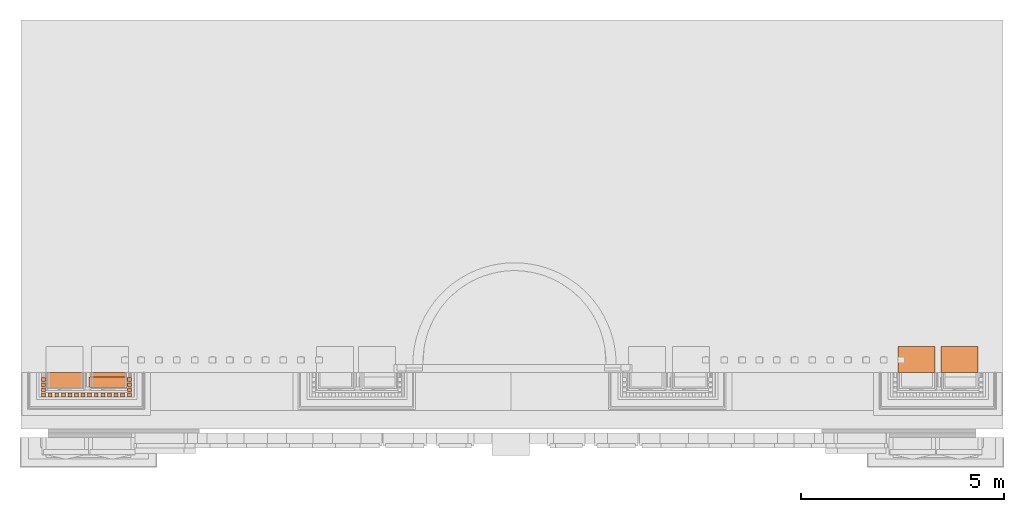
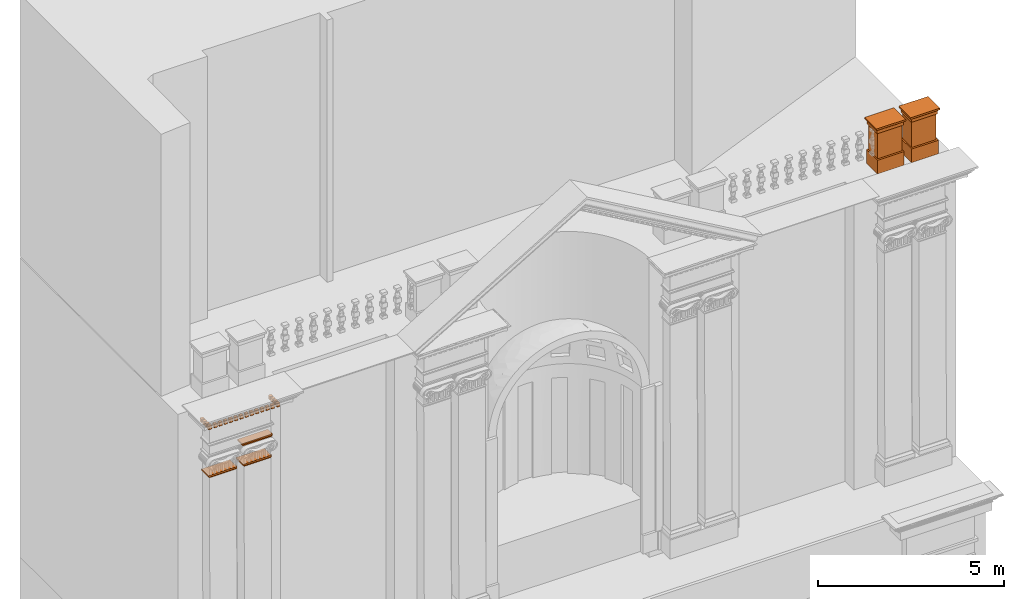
# One storey, part 14 of 44: 28 proxies.
"""IFC2X3 building model written with IfcOpenShell, lengths in metres."""

import ifcopenshell
import ifcopenshell.guid

model = None  # the IFC model being written
_history = None  # IfcOwnerHistory: only IFC2X3 demands one
_inside = {}  # id of a spatial element -> (the spatial element, [elements in it])
_under = {}  # id of a project, library or spatial element -> (it, [spatial elements below it])
_declared = {}  # id of a project -> (the project, [libraries it declares])
_typed = {}  # id of a type object -> (the type object, [elements of that type])
_made_of = {}  # id of a material, layer set ... -> (it, [elements and type objects made of it])


def new_model(schema):
    """Start an empty IFC model of exactly this schema.

    Asked for "IFC4X3", IfcOpenShell would pick the latest addendum, in which some entities
    have other attributes; the version numbers below select the first issue.
    IFC2X3 requires an IfcOwnerHistory on every rooted entity: one is made here for all.
    """
    global model, _history
    if schema == "IFC4X3":
        model = ifcopenshell.file(schema_version=(4, 3, 0, 0))
    else:
        model = ifcopenshell.file(schema=schema)
    _inside.clear()
    _under.clear()
    _declared.clear()
    _typed.clear()
    _made_of.clear()
    _history = None
    if model.schema == "IFC2X3":
        org = make("IfcOrganization", Name="unknown")
        user = make(
            "IfcPersonAndOrganization",
            ThePerson=make("IfcPerson", FamilyName="unknown"),
            TheOrganization=org,
        )
        app = make(
            "IfcApplication",
            ApplicationDeveloper=org,
            Version="unknown",
            ApplicationFullName="unknown",
            ApplicationIdentifier="unknown",
        )
        _history = make(
            "IfcOwnerHistory",
            OwningUser=user,
            OwningApplication=app,
            ChangeAction="ADDED",
            CreationDate=0,
        )
    return model


def make(cls, **values):
    """One entity of the class cls with the attributes given. An attribute that is None is left unset."""
    return model.create_entity(
        cls, **{name: value for name, value in values.items() if value is not None}
    )


def entity(cls, *values):
    """Any entity or typed value of the class cls, its attributes in the order of the schema. None: left unset."""
    e = model.create_entity(cls)
    for i, value in enumerate(values):
        if value is not None:
            e[i] = value
    return e


def rooted(cls, **values):
    """An entity with a GlobalId (a new one), such as an element, a storey or a relation."""
    return make(cls, GlobalId=ifcopenshell.guid.new(), OwnerHistory=_history, **values)


def si_unit(unit_type, name, prefix=None):
    """IfcSIUnit, for example si_unit("LENGTHUNIT", "METRE", prefix="MILLI")."""
    return make("IfcSIUnit", UnitType=unit_type, Prefix=prefix, Name=name)


def converted_unit(unit_type, name, factor, base, dimensions=None, offset=None):
    """IfcConversionBasedUnit, such as the inch: factor (a typed value) times the base unit."""
    return make(
        "IfcConversionBasedUnit"
        if offset is None
        else "IfcConversionBasedUnitWithOffset",
        ConversionOffset=offset,
        Dimensions=None
        if dimensions is None
        else entity("IfcDimensionalExponents", *dimensions),
        UnitType=unit_type,
        Name=name,
        ConversionFactor=make(
            "IfcMeasureWithUnit", ValueComponent=factor, UnitComponent=base
        ),
    )


def derived_unit(unit_type, elements):
    """IfcDerivedUnit: a product of units, each with its exponent."""
    return make(
        "IfcDerivedUnit",
        Elements=[
            make("IfcDerivedUnitElement", Unit=unit, Exponent=power)
            for unit, power in elements
        ],
        UnitType=unit_type,
    )


def assignment(units):
    """IfcUnitAssignment: the units of a project."""
    return None if units is None else make("IfcUnitAssignment", Units=units)


def point(xyz):
    """IfcCartesianPoint."""
    return None if xyz is None else make("IfcCartesianPoint", Coordinates=xyz)


def direction(xyz):
    """IfcDirection."""
    return None if xyz is None else make("IfcDirection", DirectionRatios=xyz)


def frame(location, z_axis=None, x_axis=None):
    """IfcAxis2Placement3D, a coordinate frame: its origin and axes. An axis left out is left unset."""
    return make(
        "IfcAxis2Placement3D",
        Location=point(location),
        Axis=direction(z_axis),
        RefDirection=direction(x_axis),
    )


def frame_2d(location, x_axis=None):
    """IfcAxis2Placement2D, a coordinate frame in the plane: its origin and x axis."""
    return make(
        "IfcAxis2Placement2D", Location=point(location), RefDirection=direction(x_axis)
    )


def origin():
    """The frame at (0, 0, 0) with its axes left unset."""
    return frame((0.0, 0.0, 0.0))


def place(relative_to, where):
    """IfcLocalPlacement: puts the frame where relative to a parent placement (None: the world)."""
    return make(
        "IfcLocalPlacement", PlacementRelTo=relative_to, RelativePlacement=where
    )


def context(
    kind, dimensions, precision=None, world=None, true_north=None, identifier=None
):
    """IfcGeometricRepresentationContext, for example the 3D "Model" context."""
    return make(
        "IfcGeometricRepresentationContext",
        ContextIdentifier=identifier,
        ContextType=kind,
        CoordinateSpaceDimension=dimensions,
        Precision=precision,
        WorldCoordinateSystem=world,
        TrueNorth=true_north,
    )


def subcontext(parent, identifier, kind, view, scale=None):
    """IfcGeometricRepresentationSubContext, for example "Body" below "Model"."""
    return make(
        "IfcGeometricRepresentationSubContext",
        ContextIdentifier=identifier,
        ContextType=kind,
        ParentContext=parent,
        TargetScale=scale,
        TargetView=view,
    )


def project(units=None, contexts=None):
    """IfcProject with its units and contexts."""
    return rooted(
        "IfcProject",
        Name="project",
        RepresentationContexts=contexts,
        UnitsInContext=assignment(units),
    )


def spatial(cls, under=None, at=None, **own):
    """A site, building, storey or space (cls), placed at a placement, below another one or the project."""
    s = rooted(cls, ObjectPlacement=at, **own)
    if under is not None:
        _under.setdefault(under.id(), (under, []))[1].append(s)
    return s


def polyline(points):
    """IfcPolyline through the points."""
    return make("IfcPolyline", Points=[point(p) for p in points])


def circle_curve(where, radius):
    """IfcCircle in the frame where."""
    return make("IfcCircle", Position=where, Radius=radius)


def parameter(value):
    """IfcParameterValue: where a trimmed curve begins or ends, as a parameter of its basis curve."""
    return model.create_entity("IfcParameterValue", value)


def trimmed(basis, trim1, trim2, sense, master):
    """IfcTrimmedCurve: the piece of a basis curve between two trims."""
    return make(
        "IfcTrimmedCurve",
        BasisCurve=basis,
        Trim1=trim1,
        Trim2=trim2,
        SenseAgreement=sense,
        MasterRepresentation=master,
    )


def segment(curve, same_sense, transition):
    """IfcCompositeCurveSegment."""
    return make(
        "IfcCompositeCurveSegment",
        Transition=transition,
        SameSense=same_sense,
        ParentCurve=curve,
    )


def composite_curve(segments, self_intersect=None):
    """IfcCompositeCurve: segments joined end to end."""
    return make("IfcCompositeCurve", Segments=segments, SelfIntersect=self_intersect)


def profile(cls, at=None, kind="AREA", **sizes):
    """A parametric profile (cls). Its sizes go by their IFC names, for example OverallWidth=200.0."""
    return make(cls, ProfileType=kind, Position=at, **sizes)


def rectangle(**sizes):
    """IfcRectangleProfileDef."""
    return profile("IfcRectangleProfileDef", **sizes)


def outline(outer, holes=None, kind="AREA"):
    """IfcArbitraryClosedProfileDef: a profile drawn as a closed curve; with holes, ...WithVoids."""
    if holes is None:
        return make("IfcArbitraryClosedProfileDef", ProfileType=kind, OuterCurve=outer)
    return make(
        "IfcArbitraryProfileDefWithVoids",
        ProfileType=kind,
        OuterCurve=outer,
        InnerCurves=holes,
    )


def extrude(swept, where, along, depth):
    """IfcExtrudedAreaSolid: the profile swept, set in the frame where, extruded along a direction by depth."""
    return make(
        "IfcExtrudedAreaSolid",
        SweptArea=swept,
        Position=where,
        ExtrudedDirection=direction(along),
        Depth=depth,
    )


def faces_of(points, faces, orient=None, outer=None):
    """IfcFace entities. A face is a list of loops; a loop is a list of indices into points, from 0.

    orient and outer hold one flag for each loop. By default every Orientation is true, the
    first loop of a face is its IfcFaceOuterBound and the others are IfcFaceBound.
    """
    made = []
    for i, loops in enumerate(faces):
        bounds = []
        for j, loop in enumerate(loops):
            is_outer = j == 0 if outer is None else outer[i][j]
            bounds.append(
                make(
                    "IfcFaceOuterBound" if is_outer else "IfcFaceBound",
                    Bound=make("IfcPolyLoop", Polygon=[points[k] for k in loop]),
                    Orientation=True if orient is None else orient[i][j],
                )
            )
        made.append(make("IfcFace", Bounds=bounds))
    return made


def faceted_brep(points, faces, orient=None, outer=None, voids=None):
    """IfcFacetedBrep: a solid bounded by flat faces; with voids (closed shells), ...WithVoids."""
    shared = [point(p) for p in points]
    hull = make("IfcClosedShell", CfsFaces=faces_of(shared, faces, orient, outer))
    if voids is None:
        return make("IfcFacetedBrep", Outer=hull)
    return make(
        "IfcFacetedBrepWithVoids",
        Outer=hull,
        Voids=[
            make(cls, CfsFaces=faces_of(shared, fs, o, b)) for cls, fs, o, b in voids
        ],
    )


def shape(context_of_items, identifier, shape_type, items):
    """IfcShapeRepresentation: the items that make up one representation, for example the "Body"."""
    return make(
        "IfcShapeRepresentation",
        ContextOfItems=context_of_items,
        RepresentationIdentifier=identifier,
        RepresentationType=shape_type,
        Items=items,
    )


def source(mapping_origin, context_of_items, identifier, shape_type, items):
    """IfcRepresentationMap: a shape defined once, which mapped items show again and again."""
    return make(
        "IfcRepresentationMap",
        MappingOrigin=mapping_origin,
        MappedRepresentation=shape(context_of_items, identifier, shape_type, items),
    )


def transform(
    local_origin,
    x_axis=None,
    y_axis=None,
    z_axis=None,
    scale=None,
    scale2=None,
    scale3=None,
    uniform=True,
):
    """IfcCartesianTransformationOperator3D, or its non-uniform kind. x_axis, y_axis, z_axis: its Axis1, 2, 3."""
    if uniform:
        return make(
            "IfcCartesianTransformationOperator3D",
            Axis1=direction(x_axis),
            Axis2=direction(y_axis),
            LocalOrigin=point(local_origin),
            Scale=scale,
            Axis3=direction(z_axis),
        )
    return make(
        "IfcCartesianTransformationOperator3DnonUniform",
        Axis1=direction(x_axis),
        Axis2=direction(y_axis),
        LocalOrigin=point(local_origin),
        Scale=scale,
        Axis3=direction(z_axis),
        Scale2=scale2,
        Scale3=scale3,
    )


def mapped(mapping_source, mapping_target):
    """IfcMappedItem: shows the shape of a source again, moved by a transform."""
    return make(
        "IfcMappedItem", MappingSource=mapping_source, MappingTarget=mapping_target
    )


def material(Name=None, Category=None):
    """IfcMaterial."""
    return make("IfcMaterial", Name=Name, Category=Category)


def made_of(thing, what):
    """Note that an element or type object is made of a material, layer set ...; save() writes the relation."""
    if what is not None:
        _made_of.setdefault(what.id(), (what, []))[1].append(thing)
    return thing


def type_object(cls, material=None, **own):
    """A type object (cls), such as IfcWallType, which elements share."""
    return made_of(rooted(cls, **own), material)


def type_shapes(of_type, sources):
    """Give a type object the sources (RepresentationMaps) that its elements show as mapped items."""
    of_type.RepresentationMaps = sources


def element(
    cls,
    number,
    at=None,
    inside=None,
    cuts=None,
    type_object=None,
    material=None,
    context=None,
    identifier="Body",
    shape_type=None,
    held_by="IfcProductDefinitionShape",
    body=None,
    shapes=None,
    **own,
):
    """One element of the class cls, such as IfcWall. Its Tag is "e" and its number.

    at: its placement. inside: the storey or other place that contains it. cuts: it is an
    opening in that element (IfcRelVoidsElement). A single representation is given by context,
    identifier, shape_type and body (its items); several are given by shapes. held_by: the class
    of the entity that holds the representations. save() writes the other relations.
    """
    e = rooted(cls, Tag="e%d" % number, ObjectPlacement=at, **own)
    if body is not None:
        shapes = [shape(context, identifier, shape_type, body)]
    if shapes is not None:
        e.Representation = make(held_by, Representations=shapes)
    if inside is not None:
        _inside.setdefault(inside.id(), (inside, []))[1].append(e)
    if cuts is not None:
        rooted(
            "IfcRelVoidsElement", RelatingBuildingElement=cuts, RelatedOpeningElement=e
        )
    if type_object is not None:
        _typed.setdefault(type_object.id(), (type_object, []))[1].append(e)
    return made_of(e, material)


def aggregate(whole, parts):
    """IfcRelAggregates: a whole, such as a stair, and the parts it consists of."""
    return rooted("IfcRelAggregates", RelatingObject=whole, RelatedObjects=parts)


def save(model, path):
    """Write the relations noted so far, then the file.

    IfcRelAggregates (storeys below a building ...), IfcRelContainedInSpatialStructure (elements
    in a storey), IfcRelDefinesByType, IfcRelAssociatesMaterial and IfcRelDeclares: one each for
    every whole, place, type object, material and project.
    """
    for whole, parts in _under.values():
        aggregate(whole, parts)
    for where, things in _inside.values():
        rooted(
            "IfcRelContainedInSpatialStructure",
            RelatedElements=things,
            RelatingStructure=where,
        )
    for kind, things in _typed.values():
        rooted("IfcRelDefinesByType", RelatedObjects=things, RelatingType=kind)
    for what, things in _made_of.values():
        rooted("IfcRelAssociatesMaterial", RelatedObjects=things, RelatingMaterial=what)
    for by, libraries in _declared.values():
        rooted("IfcRelDeclares", RelatingContext=by, RelatedDefinitions=libraries)
    model.write(path)


model = new_model("IFC2X3")

# Units and contexts
model_context = context("Model", 3, precision=1e-05, world=origin(), true_north=direction((6.12303176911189e-17, 1.0)))
body_context = subcontext(model_context, "Body", "Model", "MODEL_VIEW")
ifc_project = project(units=[si_unit("LENGTHUNIT", "METRE"), si_unit("AREAUNIT", "SQUARE_METRE"), si_unit("VOLUMEUNIT", "CUBIC_METRE"), converted_unit("PLANEANGLEUNIT", "DEGREE", entity("IfcRatioMeasure", 0.0174532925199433), si_unit("PLANEANGLEUNIT", "RADIAN"), dimensions=[0, 0, 0, 0, 0, 0, 0]), si_unit("MASSUNIT", "GRAM", prefix="KILO"), derived_unit("MASSDENSITYUNIT", [(si_unit("MASSUNIT", "GRAM", prefix="KILO"), 1), (si_unit("LENGTHUNIT", "METRE"), -3)]), si_unit("TIMEUNIT", "SECOND"), si_unit("FREQUENCYUNIT", "HERTZ"), si_unit("THERMODYNAMICTEMPERATUREUNIT", "DEGREE_CELSIUS"), derived_unit("THERMALTRANSMITTANCEUNIT", [(si_unit("MASSUNIT", "GRAM", prefix="KILO"), 1), (si_unit("THERMODYNAMICTEMPERATUREUNIT", "KELVIN"), -1), (si_unit("TIMEUNIT", "SECOND"), -3)]), derived_unit("VOLUMETRICFLOWRATEUNIT", [(si_unit("LENGTHUNIT", "METRE"), 3), (si_unit("TIMEUNIT", "SECOND"), -1)]), si_unit("ELECTRICCURRENTUNIT", "AMPERE"), si_unit("ELECTRICVOLTAGEUNIT", "VOLT"), si_unit("POWERUNIT", "WATT"), si_unit("FORCEUNIT", "NEWTON", prefix="KILO"), si_unit("ILLUMINANCEUNIT", "LUX"), si_unit("LUMINOUSFLUXUNIT", "LUMEN"), si_unit("LUMINOUSINTENSITYUNIT", "CANDELA"), derived_unit("USERDEFINED", [(si_unit("MASSUNIT", "GRAM", prefix="KILO"), -1), (si_unit("LENGTHUNIT", "METRE"), -2), (si_unit("TIMEUNIT", "SECOND"), 3), (si_unit("LUMINOUSFLUXUNIT", "LUMEN"), 1)]), derived_unit("LINEARVELOCITYUNIT", [(si_unit("LENGTHUNIT", "METRE"), 1), (si_unit("TIMEUNIT", "SECOND"), -1)]), si_unit("PRESSUREUNIT", "PASCAL"), derived_unit("USERDEFINED", [(si_unit("LENGTHUNIT", "METRE"), -2), (si_unit("MASSUNIT", "GRAM", prefix="KILO"), 1), (si_unit("TIMEUNIT", "SECOND"), -2)])], contexts=[model_context])

# Site, building, storey
site_placement = place(None, origin())
site = spatial("IfcSite", under=ifc_project, at=site_placement, Name="Default", CompositionType="ELEMENT")
building_placement = place(site_placement, origin())
building = spatial("IfcBuilding", under=site, at=building_placement, CompositionType="ELEMENT")
storey_placement = place(building_placement, origin())
storey = spatial("IfcBuildingStorey", under=building, at=storey_placement, Name="Livello 1", CompositionType="ELEMENT", Elevation=0.0)

# Proxies
ifc_material = material(Name="Piperno")
building_element_proxy_type = type_object("IfcBuildingElementProxyType", Name="Piedistallo_balaustra terrazzo", PredefinedType="NOTDEFINED", material=ifc_material)
shared_shape = source(origin(), body_context, "Body", "Brep", [
    faceted_brep([(0.046908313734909, 0.593560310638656, 1.29866715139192), (0.046908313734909, 0.593560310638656, 1.3744703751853), (0.456758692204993, 0.593560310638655, 1.3744703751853), (0.866608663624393, 0.593560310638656, 1.3744703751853), (0.866608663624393, 0.593560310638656, 1.29866715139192), (0.0819082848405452, 0.558560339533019, 1.29871212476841), (0.831608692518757, 0.558560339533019, 1.29871212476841), (0.0819082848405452, 0.558560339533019, 1.44170839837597), (0.831608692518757, 0.558560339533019, 1.44170839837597), (0.0453685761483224, 0.595100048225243, 1.39169607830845), (0.547469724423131, 0.594325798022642, 1.38754596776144), (0.456758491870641, 0.617051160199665, 1.4288318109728), (0.501016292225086, 0.605457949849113, 1.41575397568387), (0.0299184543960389, 0.610550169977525, 1.42233581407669), (0.896533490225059, 0.623485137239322, 1.43381545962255), (0.883598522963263, 0.610550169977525, 1.42233581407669), (0.0395835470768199, 0.600885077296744, 1.40799420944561), (0.456758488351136, 0.597554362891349, 1.40023980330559), (0.477394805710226, 0.627932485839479, 1.43661435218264), (0.016983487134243, 0.623485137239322, 1.43381545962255), (0.622237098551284, 0.638873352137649, 1.44170839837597), (0.911921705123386, 0.638873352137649, 1.44170839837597), (0.332552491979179, 0.638873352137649, 1.44170839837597), (0.0015952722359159, 0.638873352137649, 1.44170839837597), (0.873933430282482, 0.600885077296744, 1.40799420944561), (0.86814840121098, 0.595100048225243, 1.39169607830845), (0.866608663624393, 0.0469083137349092, 1.3744703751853), (0.866608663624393, 0.0469083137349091, 1.29866715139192), (0.831608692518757, 0.0819082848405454, 1.29871212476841), (0.831608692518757, 0.0819082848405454, 1.44170839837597), (0.889974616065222, 0.32023431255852, 1.42872239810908), (0.90037284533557, 0.325542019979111, 1.43625922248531), (0.911921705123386, 0.291279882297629, 1.44170839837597), (0.911921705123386, 0.00159527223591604, 1.44170839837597), (0.883598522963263, 0.02991845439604, 1.42233581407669), (0.896533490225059, 0.0169834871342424, 1.43381545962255), (0.873933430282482, 0.0395835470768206, 1.40799420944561), (0.86814840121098, 0.0453685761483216, 1.39169607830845), (0.456758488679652, 0.0469083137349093, 1.3744703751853), (0.046908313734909, 0.0469083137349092, 1.3744703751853), (0.046908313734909, 0.0469083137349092, 1.29866715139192), (0.0819082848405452, 0.0819082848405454, 1.29871212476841), (0.0819082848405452, 0.0819082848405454, 1.44170839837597), (0.366047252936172, 0.0461428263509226, 1.38754596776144), (0.456758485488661, 0.0234174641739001, 1.4288318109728), (0.412500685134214, 0.0350106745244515, 1.41575397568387), (0.016983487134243, 0.0169834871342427, 1.43381545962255), (0.0299184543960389, 0.02991845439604, 1.42233581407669), (0.456758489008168, 0.0429142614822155, 1.40023980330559), (0.436122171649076, 0.0125361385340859, 1.43661435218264), (0.291279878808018, 0.00159527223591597, 1.44170839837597), (0.0015952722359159, 0.00159527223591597, 1.44170839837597), (0.580964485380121, 0.00159527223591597, 1.44170839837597), (0.0395835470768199, 0.0395835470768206, 1.40799420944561), (0.0453685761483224, 0.0453685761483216, 1.39169607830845), (0.0015952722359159, 0.349188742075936, 1.44170839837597), (0.0235423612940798, 0.320234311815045, 1.42872239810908), (0.0131441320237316, 0.314926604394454, 1.43625922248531)], [[[0, 1, 2, 3, 4]], [[5, 0, 4, 6]], [[7, 5, 6, 8]], [[9, 10, 2]], [[11, 12, 13]], [[14, 15, 11]], [[16, 12, 17]], [[12, 11, 15]], [[18, 11, 19]], [[20, 21, 14]], [[22, 19, 23]], [[12, 15, 24]], [[16, 13, 12]], [[17, 10, 9]], [[25, 3, 10]], [[9, 2, 1]], [[17, 9, 16]], [[14, 18, 20]], [[25, 17, 24]], [[17, 25, 10]], [[11, 13, 19]], [[22, 18, 19]], [[24, 17, 12]], [[11, 18, 14]], [[22, 20, 18]], [[2, 10, 3]], [[4, 3, 26, 27]], [[6, 4, 27, 28]], [[8, 6, 28, 29]], [[30, 15, 14]], [[31, 21, 32, 33]], [[14, 31, 30]], [[34, 30, 35]], [[34, 36, 24, 15]], [[21, 31, 14]], [[30, 31, 35]], [[37, 26, 3, 25]], [[36, 37, 25, 24]], [[15, 30, 34]], [[31, 33, 35]], [[27, 26, 38, 39, 40]], [[28, 27, 40, 41]], [[29, 28, 41, 42]], [[37, 43, 38]], [[44, 45, 34]], [[46, 47, 44]], [[36, 45, 48]], [[45, 44, 47]], [[49, 44, 35]], [[50, 51, 46]], [[52, 35, 33]], [[45, 47, 53]], [[36, 34, 45]], [[48, 43, 37]], [[54, 39, 43]], [[37, 38, 26]], [[48, 37, 36]], [[46, 49, 50]], [[54, 48, 53]], [[48, 54, 43]], [[44, 34, 35]], [[52, 49, 35]], [[53, 48, 45]], [[44, 49, 46]], [[52, 50, 49]], [[38, 43, 39]], [[40, 39, 1, 0]], [[41, 40, 0, 5]], [[42, 41, 5, 7]], [[33, 29, 42]], [[29, 33, 8]], [[8, 33, 32]], [[42, 52, 33]], [[8, 32, 21]], [[8, 21, 7]], [[7, 21, 20]], [[7, 20, 22]], [[7, 22, 23]], [[7, 23, 55]], [[7, 55, 51]], [[51, 42, 7]], [[42, 51, 50]], [[42, 50, 52]], [[56, 47, 46]], [[57, 51, 55, 23]], [[46, 57, 56]], [[13, 56, 19]], [[13, 16, 53, 47]], [[51, 57, 46]], [[56, 57, 19]], [[9, 1, 39, 54]], [[16, 9, 54, 53]], [[47, 56, 13]], [[57, 23, 19]]]),
    faceted_brep([(0.911921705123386, 0.00159527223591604, 1.44170839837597), (0.911921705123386, 0.00159527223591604, 1.49643867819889), (0.0015952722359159, 0.00159527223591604, 1.49643867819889), (0.0015952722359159, 0.00159527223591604, 1.44170839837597), (0.911921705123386, 0.638873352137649, 1.44170839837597), (0.0015952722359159, 0.638873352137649, 1.44170839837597), (0.0015952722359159, 0.638873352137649, 1.49643867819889), (0.911921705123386, 0.638873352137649, 1.49643867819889)], [[[0, 1, 2, 3]], [[4, 5, 6, 7]], [[1, 0, 4, 7]], [[2, 1, 7, 6]], [[3, 2, 6, 5]], [[0, 3, 5, 4]]]),
    faceted_brep([(0.870792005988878, 0.01875005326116, 0.0), (0.870792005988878, 0.01875005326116, 0.44582479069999), (0.0423439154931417, 0.01875005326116, 0.44582479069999), (0.0423439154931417, 0.01875005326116, 0.0), (0.870792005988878, 0.609374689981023, 0.0), (0.0423439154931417, 0.609374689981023, 0.0), (0.0423439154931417, 0.609374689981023, 0.44582479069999), (0.870792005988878, 0.609374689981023, 0.44582479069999)], [[[0, 1, 2, 3]], [[4, 5, 6, 7]], [[1, 0, 4, 7]], [[2, 1, 7, 6]], [[3, 2, 6, 5]], [[0, 3, 5, 4]]]),
    faceted_brep([(0.0794676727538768, 0.079467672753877, 0.44582479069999), (0.834049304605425, 0.079467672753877, 0.445824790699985), (0.834049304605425, 0.079467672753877, 1.29967859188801), (0.0794676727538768, 0.079467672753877, 1.29967859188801), (0.0794676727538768, 0.561000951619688, 0.44582479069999), (0.0794676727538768, 0.561000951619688, 1.29967859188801), (0.834049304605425, 0.561000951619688, 1.29967859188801), (0.834049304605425, 0.561000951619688, 0.445824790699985)], [[[0, 1, 2, 3]], [[4, 5, 6, 7]], [[2, 1, 7, 6]], [[3, 2, 6, 5]], [[0, 3, 5, 4]], [[1, 0, 4, 7]]]),
])
type_shapes(building_element_proxy_type, [shared_shape])
for number, where, name in (
    (1, (9.43591460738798, 1.25399804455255, 23.314418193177), "Piedistallo_balaustra terrazzo:Piedistallo_balaustra terrazzo"),
    (2, (10.495914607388, 1.25399804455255, 23.314418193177), "Piedistallo_balaustra terrazzo:Piedistallo_balaustra terrazzo"),
):
    element("IfcBuildingElementProxy", number, at=place(storey_placement, frame(where)), inside=storey, type_object=building_element_proxy_type, material=ifc_material, Name=name, ObjectType="Piedistallo_balaustra terrazzo", context=body_context, shape_type="MappedRepresentation", body=[
        mapped(shared_shape, transform((0.0, 0.0, 0.0), scale=1.0)),
    ])
proxy_1_placement = place(storey_placement, frame((-10.4269695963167, 0.883372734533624, 20.9139292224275)))
element("IfcBuildingElementProxy", 3, at=proxy_1_placement, inside=storey, Name="Stratigrafia", context=body_context, shape_type="SweptSolid", body=[
    extrude(outline(composite_curve([segment(polyline([(-0.123759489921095, 0.395360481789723), (0.101421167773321, -0.401671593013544)]), True, "CONTINUOUS"), segment(trimmed(circle_curve(frame_2d((0.096890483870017, -0.441245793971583), x_axis=(0.85216090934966, 0.523279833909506)), 0.0398327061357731), [parameter(1.99993278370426e-11)], [parameter(51.9163679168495)], True, "PARAMETER"), False, "CONTINUOUS"), segment(polyline([(0.130834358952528, -0.420402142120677), (-0.108496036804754, 0.426713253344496)]), True, "CONTINUOUS"), segment(trimmed(circle_curve(frame_2d((-0.148328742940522, 0.426713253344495), x_axis=(1.0, 0.0)), 0.039832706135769), [parameter(308.083632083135)], [parameter(359.999999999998)], True, "PARAMETER"), False, "CONTINUOUS")], self_intersect=False)), frame((0.441732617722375, 0.0, 0.0132016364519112), z_axis=(0.0, -1.0, 0.0), x_axis=(0.271881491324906, 0.0, 0.962330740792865)), (0.0, 0.0, -1.0), 0.38),
])
proxy_2_placement = place(storey_placement, frame((-10.4253743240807, 0.883372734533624, 20.9387372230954)))
element("IfcBuildingElementProxy", 4, at=proxy_2_placement, inside=storey, Name="Stratigrafia", context=body_context, shape_type="SweptSolid", body=[
    extrude(rectangle(XDim=0.052818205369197, YDim=0.38, at=frame_2d((0.0, -2.16666962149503e-15), x_axis=(0.0, 1.0))), frame((0.0, 0.19, 0.0264091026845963), z_axis=(1.0, 0.0, 0.0), x_axis=(0.0, 1.0, 0.0)), (0.0, 0.0, 1.0), 0.880274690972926),
])
proxy_3_placement = place(storey_placement, frame((-11.4988445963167, 0.883372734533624, 20.9139292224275)))
element("IfcBuildingElementProxy", 5, at=proxy_3_placement, inside=storey, Name="Stratigrafia", context=body_context, shape_type="SweptSolid", body=[
    extrude(outline(composite_curve([segment(polyline([(-0.123759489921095, 0.395360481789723), (0.101421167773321, -0.401671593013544)]), True, "CONTINUOUS"), segment(trimmed(circle_curve(frame_2d((0.0968904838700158, -0.441245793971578), x_axis=(0.85216090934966, 0.523279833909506)), 0.0398327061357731), [parameter(1.99993278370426e-11)], [parameter(51.9163679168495)], True, "PARAMETER"), False, "CONTINUOUS"), segment(polyline([(0.130834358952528, -0.420402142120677), (-0.108496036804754, 0.426713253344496)]), True, "CONTINUOUS"), segment(trimmed(circle_curve(frame_2d((-0.148328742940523, 0.426713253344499), x_axis=(1.0, 0.0)), 0.039832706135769), [parameter(308.083632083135)], [parameter(359.999999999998)], True, "PARAMETER"), False, "CONTINUOUS")], self_intersect=False)), frame((0.441732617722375, 0.0, 0.0132016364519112), z_axis=(0.0, -1.0, 0.0), x_axis=(0.271881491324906, 0.0, 0.962330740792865)), (0.0, 0.0, -1.0), 0.38),
])
proxy_4_placement = place(storey_placement, frame((-11.4972493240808, 0.883372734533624, 20.9387372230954)))
element("IfcBuildingElementProxy", 6, at=proxy_4_placement, inside=storey, Name="Stratigrafia", context=body_context, shape_type="SweptSolid", body=[
    extrude(rectangle(XDim=0.052818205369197, YDim=0.38, at=frame_2d((0.0, -2.16666962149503e-15), x_axis=(0.0, 1.0))), frame((0.0, 0.19, 0.0264091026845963), z_axis=(1.0, 0.0, 0.0), x_axis=(0.0, 1.0, 0.0)), (0.0, 0.0, 1.0), 0.880274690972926),
])
proxy_5_placement = place(storey_placement, frame((-10.453924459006, 0.893372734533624, 21.5902079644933)))
element("IfcBuildingElementProxy", 7, at=proxy_5_placement, inside=storey, Name="Stratigrafia", context=body_context, shape_type="SweptSolid", body=[
    extrude(outline(polyline([(-0.444158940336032, -0.0175491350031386), (0.448323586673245, -0.0175491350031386), (0.472017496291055, 0.0175491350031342), (-0.476182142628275, 0.0175491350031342), (-0.444158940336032, -0.0175491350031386)])), frame((0.472017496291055, 0.0, 0.0175491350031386), z_axis=(0.0, 1.0, 0.0), x_axis=(-1.0, 0.0, 0.0)), (0.0, 0.0, 1.0), 0.25),
])
proxy_6_placement = place(storey_placement, frame((-10.453924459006, 0.893372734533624, 21.6253062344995)))
element("IfcBuildingElementProxy", 8, at=proxy_6_placement, inside=storey, Name="Stratigrafia", context=body_context, shape_type="SweptSolid", body=[
    extrude(rectangle(XDim=0.0459747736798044, YDim=0.25, at=frame_2d((0.0, 0.0), x_axis=(0.0, 1.0))), frame((0.0, 0.125, 0.0229873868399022), z_axis=(1.0, 0.0, 0.0), x_axis=(0.0, 1.0, 0.0)), (0.0, 0.0, 1.0), 0.948246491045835),
])
for number, where in (
    (9, (-9.67401284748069, 0.661139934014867, 22.6775608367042)),
    (10, (-9.83579180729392, 0.661139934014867, 22.6775608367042)),
    (11, (-9.99757076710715, 0.661139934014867, 22.6775608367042)),
    (12, (-10.1593497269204, 0.661139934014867, 22.6775608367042)),
    (13, (-10.3211286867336, 0.661139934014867, 22.6775608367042)),
    (14, (-10.4829076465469, 0.661139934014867, 22.6775608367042)),
    (15, (-10.6446866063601, 0.661139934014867, 22.6775608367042)),
    (16, (-10.8064655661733, 0.661139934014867, 22.6775608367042)),
    (17, (-10.9682445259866, 0.661139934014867, 22.6775608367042)),
    (18, (-11.1300234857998, 0.661139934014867, 22.6775608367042)),
    (19, (-11.291802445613, 0.661139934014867, 22.6775608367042)),
    (20, (-11.4518064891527, 0.661139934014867, 22.6775608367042)),
    (21, (-11.6213704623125, 0.661139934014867, 22.6775608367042)),
    (22, (-9.5041140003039, 0.661139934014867, 22.6775608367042)),
):
    element("IfcBuildingElementProxy", number, at=place(storey_placement, frame(where)), inside=storey, material=ifc_material, Name="Stratigrafia", context=body_context, shape_type="SweptSolid", body=[
        extrude(rectangle(XDim=0.117802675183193, YDim=0.0898173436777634, at=frame_2d((6.59194920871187e-17, 0.0), x_axis=(0.0, 1.0))), frame((0.0, 0.0449086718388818, 0.0589013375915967), z_axis=(1.0, 0.0, 0.0), x_axis=(0.0, 1.0, 0.0)), (0.0, 0.0, 1.0), 0.0951819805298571),
    ])
proxy_7_placement = place(storey_placement, frame((-9.5041140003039, 0.786139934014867, 22.6775608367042)))
element("IfcBuildingElementProxy", 23, at=proxy_7_placement, inside=storey, material=ifc_material, Name="Stratigrafia", context=body_context, shape_type="SweptSolid", body=[
    extrude(rectangle(XDim=0.117802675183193, YDim=0.0898173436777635, at=frame_2d((-6.59194920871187e-17, 0.0), x_axis=(0.0, 1.0))), frame((0.0, 0.0449086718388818, 0.0589013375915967), z_axis=(1.0, 0.0, 0.0), x_axis=(0.0, 1.0, 0.0)), (0.0, 0.0, 1.0), 0.0951819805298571),
])
proxy_8_placement = place(storey_placement, frame((-9.5041140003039, 0.911139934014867, 22.6775608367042)))
element("IfcBuildingElementProxy", 24, at=proxy_8_placement, inside=storey, material=ifc_material, Name="Stratigrafia", context=body_context, shape_type="SweptSolid", body=[
    extrude(rectangle(XDim=0.117802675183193, YDim=0.0898173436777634, at=frame_2d((-6.59194920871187e-17, 0.0), x_axis=(0.0, 1.0))), frame((0.0, 0.0449086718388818, 0.0589013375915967), z_axis=(1.0, 0.0, 0.0), x_axis=(0.0, 1.0, 0.0)), (0.0, 0.0, 1.0), 0.0951819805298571),
])
for number, where in (
    (25, (-9.5041140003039, 1.04113993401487, 22.6775608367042)),
    (26, (-11.6213704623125, 0.786139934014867, 22.6775608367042)),
):
    element("IfcBuildingElementProxy", number, at=place(storey_placement, frame(where)), inside=storey, material=ifc_material, Name="Stratigrafia", context=body_context, shape_type="SweptSolid", body=[
        extrude(rectangle(XDim=0.117802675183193, YDim=0.0898173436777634, at=frame_2d((6.59194920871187e-17, 0.0), x_axis=(0.0, 1.0))), frame((0.0, 0.0449086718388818, 0.0589013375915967), z_axis=(1.0, 0.0, 0.0), x_axis=(0.0, 1.0, 0.0)), (0.0, 0.0, 1.0), 0.0951819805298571),
    ])
proxy_9_placement = place(storey_placement, frame((-11.6213704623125, 0.911139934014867, 22.6775608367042)))
element("IfcBuildingElementProxy", 27, at=proxy_9_placement, inside=storey, material=ifc_material, Name="Stratigrafia", context=body_context, shape_type="SweptSolid", body=[
    extrude(rectangle(XDim=0.117802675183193, YDim=0.0898173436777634, at=frame_2d((-6.59194920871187e-17, 0.0), x_axis=(0.0, 1.0))), frame((0.0, 0.0449086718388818, 0.0589013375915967), z_axis=(1.0, 0.0, 0.0), x_axis=(0.0, 1.0, 0.0)), (0.0, 0.0, 1.0), 0.0951819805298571),
])
proxy_10_placement = place(storey_placement, frame((-11.6213704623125, 1.04113993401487, 22.6775608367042)))
element("IfcBuildingElementProxy", 28, at=proxy_10_placement, inside=storey, material=ifc_material, Name="Stratigrafia", context=body_context, shape_type="SweptSolid", body=[
    extrude(rectangle(XDim=0.117802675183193, YDim=0.0898173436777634, at=frame_2d((6.59194920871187e-17, 0.0), x_axis=(0.0, 1.0))), frame((0.0, 0.0449086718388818, 0.0589013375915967), z_axis=(1.0, 0.0, 0.0), x_axis=(0.0, 1.0, 0.0)), (0.0, 0.0, 1.0), 0.0951819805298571),
])

save(model, "model.ifc")
